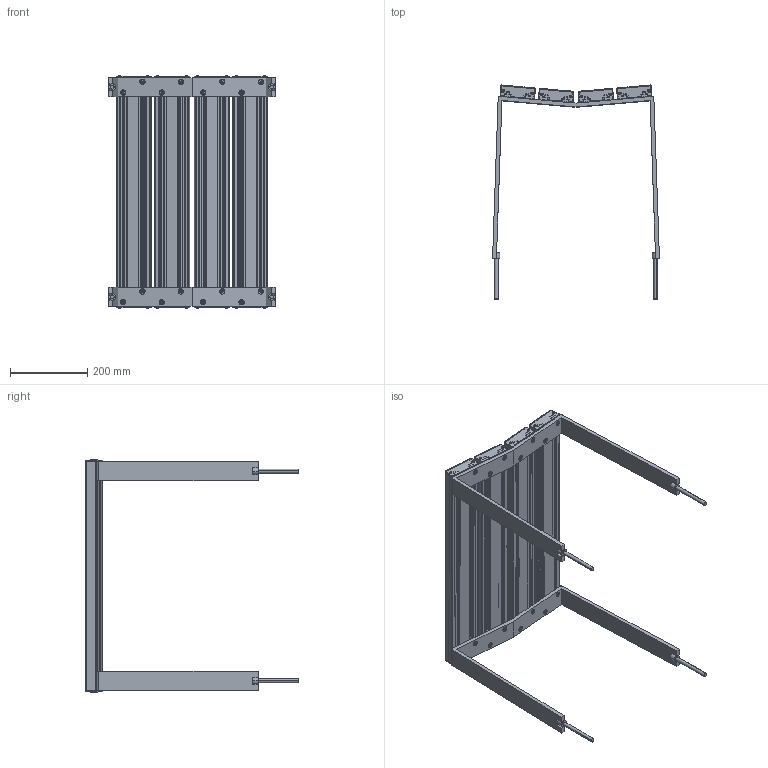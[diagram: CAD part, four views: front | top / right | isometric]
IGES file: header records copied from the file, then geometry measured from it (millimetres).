
Start section: SolidWorks IGES file using analytic representation for surfaces
Global section: file name: C:\SANTACOLE_PDM\Proyectos Catálogo\PROD-P13-073 -- BANCO HARPO\6_Técnico comercial\3D WEB\Banqueta Harpo 60 cm Aluminio - Low Bench Harpo 60cm Aluminium.IGS; native system: SolidWorks 2013; preprocessor: SolidWorks 2013; author: jordi.munoz; date: 150326.181656; units: millimetre
Bounding box: 433 x 554.28 x 604.33 mm (x, y, z)
Volume: 2938861 mm3; surface area: 1928812.9 mm2
Topology: 70 solids, 70 shells, 2392 faces, 6148 edges, 3880 vertices
Faces by surface type: revolution 1532, plane 828, bspline 32
